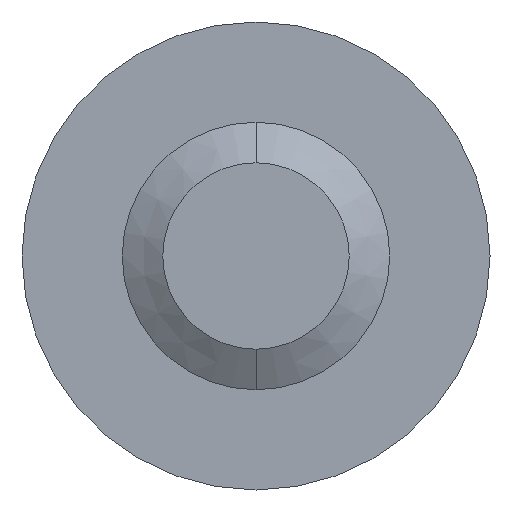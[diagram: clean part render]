
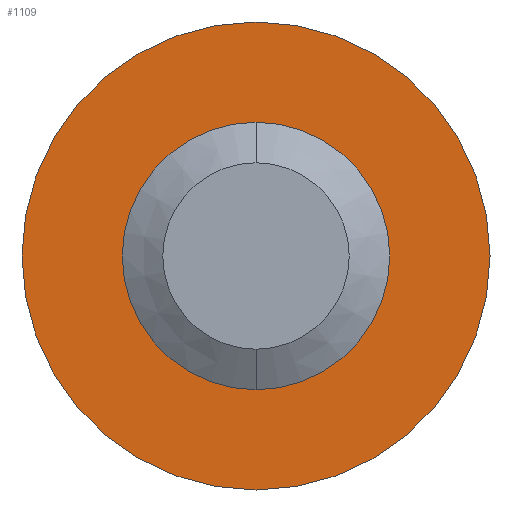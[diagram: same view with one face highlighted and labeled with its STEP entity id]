
A CAD part, front view. The second image highlights one B-rep face of the part: STEP entity #1109.
In plain terms, the highlighted planar face has unit normal (0, -1, 0).
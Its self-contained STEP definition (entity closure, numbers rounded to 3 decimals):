
#13 = CARTESIAN_POINT ( 'NONE',  ( 0., 12., 2. ) ) ;
#147 = CARTESIAN_POINT ( 'NONE',  ( 0., 12., 0. ) ) ;
#195 = ORIENTED_EDGE ( 'NONE', *, *, #1250, .T. ) ;
#281 = VERTEX_POINT ( 'NONE', #437 ) ;
#305 = CIRCLE ( 'NONE', #1590, 2. ) ;
#437 = CARTESIAN_POINT ( 'NONE',  ( 0., 12., -2. ) ) ;
#456 = CARTESIAN_POINT ( 'NONE',  ( 0., 12., 0. ) ) ;
#507 = CIRCLE ( 'NONE', #1903, 3.5 ) ;
#522 = EDGE_CURVE ( 'NONE', #1432, #281, #1449, .T. ) ;
#648 = FACE_OUTER_BOUND ( 'NONE', #1853, .T. ) ;
#703 = CARTESIAN_POINT ( 'NONE',  ( 0., 12., 0. ) ) ;
#772 = CARTESIAN_POINT ( 'NONE',  ( 0., 12., 3.5 ) ) ;
#926 = VERTEX_POINT ( 'NONE', #772 ) ;
#1091 = DIRECTION ( 'NONE',  ( 0., 1., 0. ) ) ;
#1109 = ADVANCED_FACE ( 'NONE', ( #648, #1406 ), #1169, .F. ) ;
#1169 = PLANE ( 'NONE',  #1456 ) ;
#1250 = EDGE_CURVE ( 'NONE', #281, #1432, #305, .T. ) ;
#1253 = EDGE_CURVE ( 'NONE', #926, #1822, #507, .T. ) ;
#1272 = DIRECTION ( 'NONE',  ( 0., 0., 1. ) ) ;
#1377 = ORIENTED_EDGE ( 'NONE', *, *, #1450, .F. ) ;
#1400 = DIRECTION ( 'NONE',  ( 0., 1., 0. ) ) ;
#1406 = FACE_BOUND ( 'NONE', #1626, .T. ) ;
#1413 = AXIS2_PLACEMENT_3D ( 'NONE', #703, #1459, #1272 ) ;
#1432 = VERTEX_POINT ( 'NONE', #13 ) ;
#1449 = CIRCLE ( 'NONE', #1413, 2. ) ;
#1450 = EDGE_CURVE ( 'NONE', #1822, #926, #1955, .T. ) ;
#1456 = AXIS2_PLACEMENT_3D ( 'NONE', #1563, #2175, #1939 ) ;
#1459 = DIRECTION ( 'NONE',  ( 0., 1., 0. ) ) ;
#1494 = DIRECTION ( 'NONE',  ( 0., 1., 0. ) ) ;
#1563 = CARTESIAN_POINT ( 'NONE',  ( 0., 12., 0. ) ) ;
#1590 = AXIS2_PLACEMENT_3D ( 'NONE', #1841, #1091, #1861 ) ;
#1626 = EDGE_LOOP ( 'NONE', ( #195, #2099 ) ) ;
#1806 = DIRECTION ( 'NONE',  ( 0., 0., 1. ) ) ;
#1822 = VERTEX_POINT ( 'NONE', #2275 ) ;
#1841 = CARTESIAN_POINT ( 'NONE',  ( 0., 12., 0. ) ) ;
#1853 = EDGE_LOOP ( 'NONE', ( #1377, #1992 ) ) ;
#1861 = DIRECTION ( 'NONE',  ( 0., 0., 1. ) ) ;
#1903 = AXIS2_PLACEMENT_3D ( 'NONE', #147, #1494, #2264 ) ;
#1939 = DIRECTION ( 'NONE',  ( 0., 0., 1. ) ) ;
#1955 = CIRCLE ( 'NONE', #2465, 3.5 ) ;
#1992 = ORIENTED_EDGE ( 'NONE', *, *, #1253, .F. ) ;
#2099 = ORIENTED_EDGE ( 'NONE', *, *, #522, .T. ) ;
#2175 = DIRECTION ( 'NONE',  ( 0., 1., 0. ) ) ;
#2264 = DIRECTION ( 'NONE',  ( 0., 0., 1. ) ) ;
#2275 = CARTESIAN_POINT ( 'NONE',  ( 0., 12., -3.5 ) ) ;
#2465 = AXIS2_PLACEMENT_3D ( 'NONE', #456, #1400, #1806 ) ;
